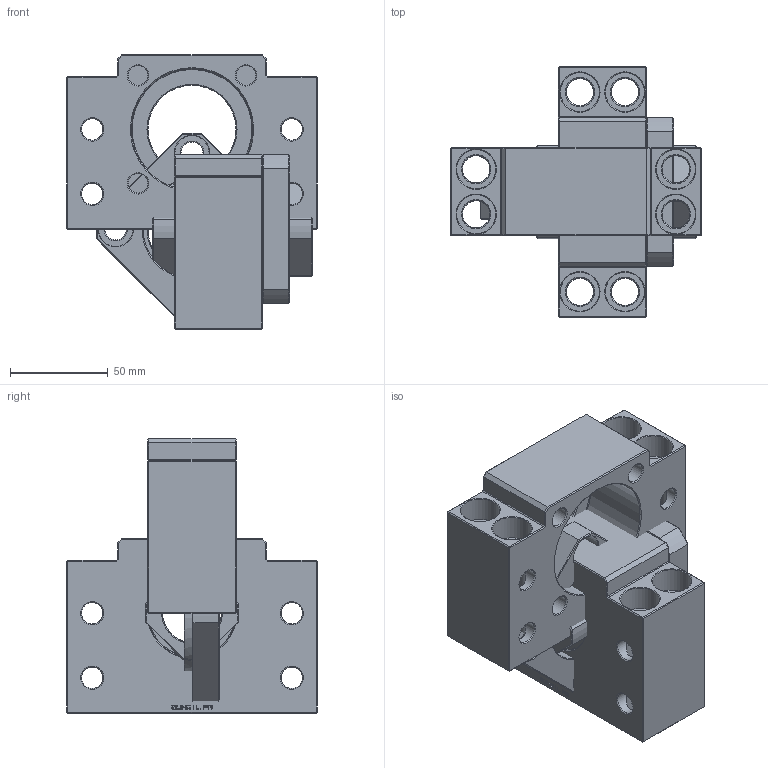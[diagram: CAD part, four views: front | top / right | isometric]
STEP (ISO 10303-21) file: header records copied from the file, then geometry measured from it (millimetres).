
FILE_DESCRIPTION( ( 'Unknown' ), '1' );
FILE_NAME( 'D:/3D/憮んお嶸棉/20060119/SBK TYPE/SBK30/SBK30.stp', 'Unknown', ( 'Unknown' ), ( 'Unknown' ), 'XStep 1.0', 'Unknown', ' ' );
FILE_SCHEMA( ( 'CONFIG_CONTROL_DESIGN' ) );
Length unit declared in the file: millimetre
Products named in the file (10): Assem1; SBK30(collar); SBK30(seal); SBK30(bearing); SBK30(housing); SBK30(holdinglid); SBK30(locknut)
Bounding box: 128 x 128 x 140 mm (x, y, z)
Volume: 887016.6 mm3; surface area: 228237.2 mm2
Topology: 18 solids, 18 shells, 1456 faces, 3818 edges, 2482 vertices
Faces by surface type: plane 710, cylinder 574, cone 170, bspline 2
Full cylindrical faces by diameter (mm): 6 x2, 10 x8, 11 x32, 14 x8, 17.5 x8, 20 x8, 30 x10, 35 x8, 45 x8, 50 x2, 62 x8
Entity records: 23481 total; most frequent: CARTESIAN_POINT 5297, DIRECTION 3805, ORIENTED_EDGE 3474, EDGE_CURVE 1737, AXIS2_PLACEMENT_3D 1382, VERTEX_POINT 1190, LINE 1041, VECTOR 1041
